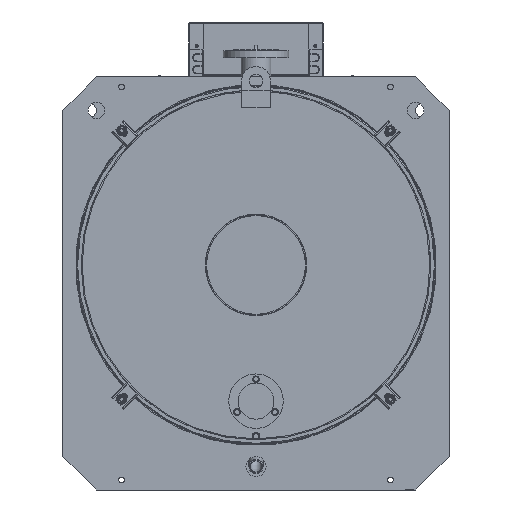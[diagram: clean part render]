
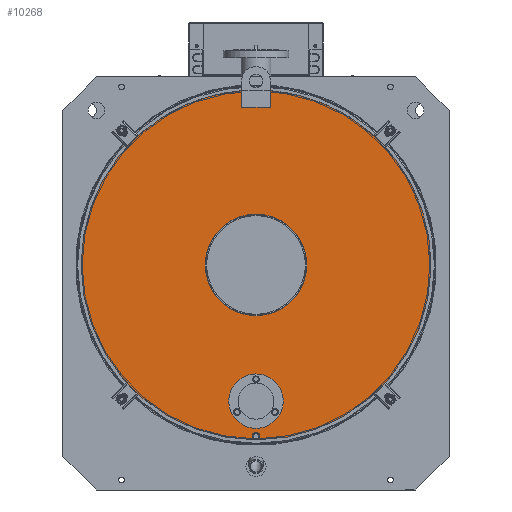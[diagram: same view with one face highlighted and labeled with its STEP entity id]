
A CAD part, left-side view. The second image highlights one B-rep face of the part: STEP entity #10268.
In plain terms, the highlighted planar face has unit normal (-1, 0, 0) by its records, which use the part's own axes.
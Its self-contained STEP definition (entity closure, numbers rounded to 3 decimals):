
#10268=ADVANCED_FACE('',(#65980,#65982,#65984),#65986,.T.);
#65980=FACE_BOUND('',#65981,.T.);
#65981=EDGE_LOOP('',(#108287,#108288,#108289,#108290,#108291,#108292,#108293,#108294,
#108295));
#65982=FACE_BOUND('',#65983,.T.);
#65983=EDGE_LOOP('',(#108296));
#65984=FACE_BOUND('',#65985,.T.);
#65985=EDGE_LOOP('',(#108297));
#65986=PLANE('',#65987);
#65987=AXIS2_PLACEMENT_3D('',#65988,#65989,#65990);
#65988=CARTESIAN_POINT('',(-1689.,0.,0.));
#65989=DIRECTION('',(-1.,0.,0.));
#65990=DIRECTION('',(0.,-1.,0.));
#108287=ORIENTED_EDGE('',*,*,#127257,.F.);
#108288=ORIENTED_EDGE('',*,*,#127258,.F.);
#108289=ORIENTED_EDGE('',*,*,#127259,.F.);
#108290=ORIENTED_EDGE('',*,*,#127188,.T.);
#108291=ORIENTED_EDGE('',*,*,#127187,.T.);
#108292=ORIENTED_EDGE('',*,*,#127260,.T.);
#108293=ORIENTED_EDGE('',*,*,#127261,.T.);
#108294=ORIENTED_EDGE('',*,*,#127262,.T.);
#108295=ORIENTED_EDGE('',*,*,#127190,.T.);
#108296=ORIENTED_EDGE('',*,*,#127263,.T.);
#108297=ORIENTED_EDGE('',*,*,#127264,.F.);
#127187=EDGE_CURVE('',#139790,#139788,#139791,.T.);
#127188=EDGE_CURVE('',#139792,#139790,#139793,.T.);
#127190=EDGE_CURVE('',#139796,#139794,#139797,.T.);
#127257=EDGE_CURVE('',#139913,#139794,#139914,.T.);
#127258=EDGE_CURVE('',#139915,#139913,#139916,.T.);
#127259=EDGE_CURVE('',#139792,#139915,#139917,.T.);
#127260=EDGE_CURVE('',#139788,#139918,#139919,.F.);
#127261=EDGE_CURVE('',#139918,#139920,#139921,.F.);
#127262=EDGE_CURVE('',#139920,#139796,#139922,.F.);
#127263=EDGE_CURVE('',#139923,#139923,#139924,.F.);
#127264=EDGE_CURVE('',#139925,#139925,#139926,.T.);
#139788=VERTEX_POINT('',#179029);
#139790=VERTEX_POINT('',#179033);
#139791=CIRCLE('',#179034,520.5);
#139792=VERTEX_POINT('',#179038);
#139793=CIRCLE('',#179039,520.5);
#139794=VERTEX_POINT('',#179043);
#139796=VERTEX_POINT('',#179048);
#139797=CIRCLE('',#179049,520.5);
#139913=VERTEX_POINT('',#179334);
#139914=LINE('',#179335,#179336);
#139915=VERTEX_POINT('',#179338);
#139916=LINE('',#179339,#179340);
#139917=LINE('',#179342,#179343);
#139918=VERTEX_POINT('',#179345);
#139919=LINE('',#179346,#179347);
#139920=VERTEX_POINT('',#179349);
#139921=CIRCLE('',#179350,11.);
#139922=LINE('',#179354,#179355);
#139923=VERTEX_POINT('',#179357);
#139924=CIRCLE('',#179358,151.);
#139925=VERTEX_POINT('',#179362);
#139926=CIRCLE('',#179363,81.);
#179029=CARTESIAN_POINT('',(-1689.,4.583,-520.48));
#179033=CARTESIAN_POINT('',(-1689.,520.5,-0.378));
#179034=AXIS2_PLACEMENT_3D('',#179035,#179036,#179037);
#179035=CARTESIAN_POINT('',(-1689.,0.,0.));
#179036=DIRECTION('',(-1.,0.,0.));
#179037=DIRECTION('',(0.,1.,-0.001));
#179038=CARTESIAN_POINT('',(-1689.,43.,518.721));
#179039=AXIS2_PLACEMENT_3D('',#179040,#179041,#179042);
#179040=CARTESIAN_POINT('',(-1689.,0.,0.));
#179041=DIRECTION('',(-1.,0.,0.));
#179042=DIRECTION('',(0.,0.083,0.997));
#179043=CARTESIAN_POINT('',(-1689.,-43.,518.721));
#179048=CARTESIAN_POINT('',(-1689.,-4.583,-520.48));
#179049=AXIS2_PLACEMENT_3D('',#179050,#179051,#179052);
#179050=CARTESIAN_POINT('',(-1689.,0.,0.));
#179051=DIRECTION('',(-1.,0.,0.));
#179052=DIRECTION('',(0.,-0.009,-1.));
#179334=CARTESIAN_POINT('',(-1689.,-43.,469.5));
#179335=CARTESIAN_POINT('',(-1689.,-43.,469.5));
#179336=VECTOR('',#179337,1.);
#179337=DIRECTION('',(0.,0.,1.));
#179338=CARTESIAN_POINT('',(-1689.,43.,469.5));
#179339=CARTESIAN_POINT('',(-1689.,43.,469.5));
#179340=VECTOR('',#179341,1.);
#179341=DIRECTION('',(0.,-1.,0.));
#179342=CARTESIAN_POINT('',(-1689.,43.,518.721));
#179343=VECTOR('',#179344,1.);
#179344=DIRECTION('',(0.,0.,-1.));
#179345=CARTESIAN_POINT('',(-1689.,4.583,-519.5));
#179346=CARTESIAN_POINT('',(-1689.,4.583,-519.5));
#179347=VECTOR('',#179348,1.);
#179348=DIRECTION('',(0.,0.,-1.));
#179349=CARTESIAN_POINT('',(-1689.,-4.583,-519.5));
#179350=AXIS2_PLACEMENT_3D('',#179351,#179352,#179353);
#179351=CARTESIAN_POINT('',(-1689.,0.,-509.5));
#179352=DIRECTION('',(-1.,0.,0.));
#179353=DIRECTION('',(0.,-0.417,-0.909));
#179354=CARTESIAN_POINT('',(-1689.,-4.583,-520.48));
#179355=VECTOR('',#179356,1.);
#179356=DIRECTION('',(0.,0.,1.));
#179357=CARTESIAN_POINT('',(-1689.,-151.,0.));
#179358=AXIS2_PLACEMENT_3D('',#179359,#179360,#179361);
#179359=CARTESIAN_POINT('',(-1689.,0.,0.));
#179360=DIRECTION('',(-1.,0.,0.));
#179361=DIRECTION('',(0.,-1.,0.));
#179362=CARTESIAN_POINT('',(-1689.,-81.,-405.5));
#179363=AXIS2_PLACEMENT_3D('',#179364,#179365,#179366);
#179364=CARTESIAN_POINT('',(-1689.,0.,-405.5));
#179365=DIRECTION('',(-1.,0.,0.));
#179366=DIRECTION('',(0.,-1.,0.));
